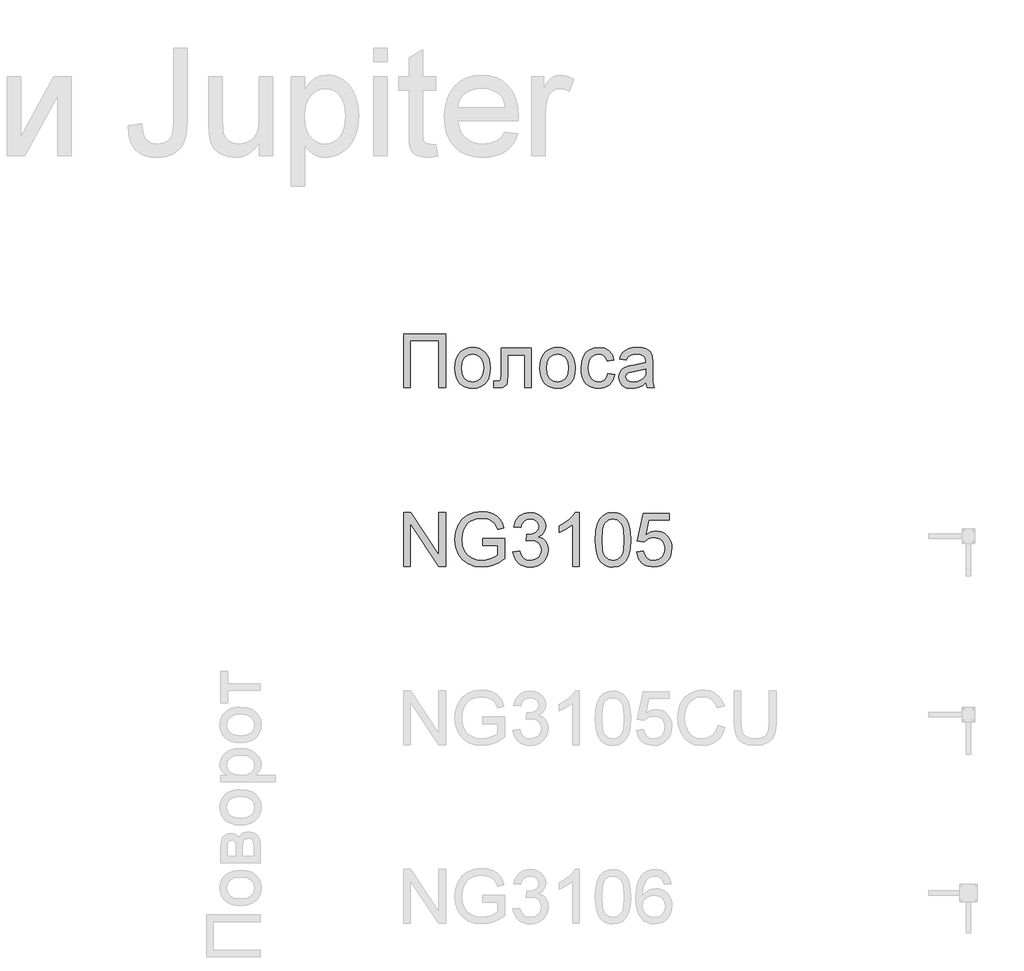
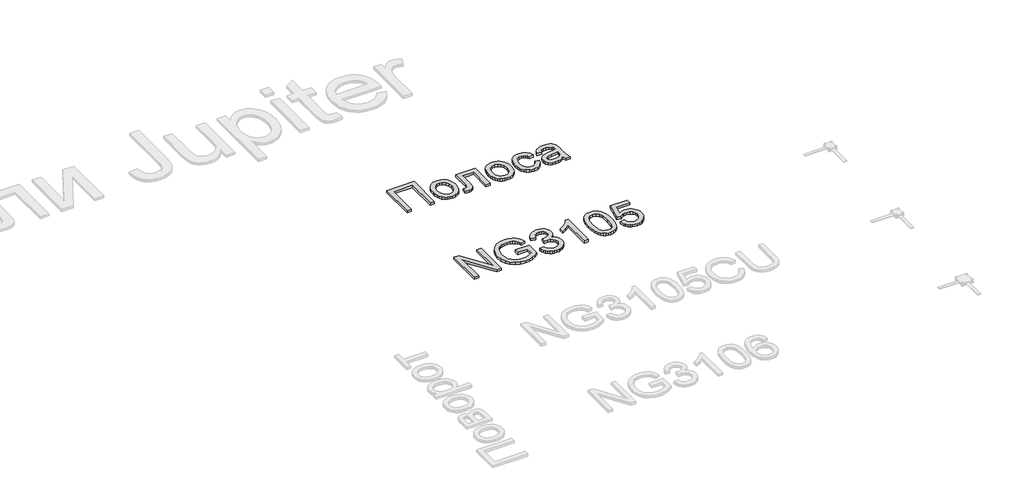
# One storey, part 124 of 124: 2 proxies.
"""IFC4 building model written with IfcOpenShell, lengths in millimetres."""

import ifcopenshell
import ifcopenshell.guid

model = None  # the IFC model being written
_history = None  # IfcOwnerHistory: only IFC2X3 demands one
_inside = {}  # id of a spatial element -> (the spatial element, [elements in it])
_under = {}  # id of a project, library or spatial element -> (it, [spatial elements below it])
_declared = {}  # id of a project -> (the project, [libraries it declares])
_typed = {}  # id of a type object -> (the type object, [elements of that type])
_made_of = {}  # id of a material, layer set ... -> (it, [elements and type objects made of it])


def new_model(schema):
    """Start an empty IFC model of exactly this schema.

    Asked for "IFC4X3", IfcOpenShell would pick the latest addendum, in which some entities
    have other attributes; the version numbers below select the first issue.
    IFC2X3 requires an IfcOwnerHistory on every rooted entity: one is made here for all.
    """
    global model, _history
    if schema == "IFC4X3":
        model = ifcopenshell.file(schema_version=(4, 3, 0, 0))
    else:
        model = ifcopenshell.file(schema=schema)
    _inside.clear()
    _under.clear()
    _declared.clear()
    _typed.clear()
    _made_of.clear()
    _history = None
    if model.schema == "IFC2X3":
        org = make("IfcOrganization", Name="unknown")
        user = make(
            "IfcPersonAndOrganization",
            ThePerson=make("IfcPerson", FamilyName="unknown"),
            TheOrganization=org,
        )
        app = make(
            "IfcApplication",
            ApplicationDeveloper=org,
            Version="unknown",
            ApplicationFullName="unknown",
            ApplicationIdentifier="unknown",
        )
        _history = make(
            "IfcOwnerHistory",
            OwningUser=user,
            OwningApplication=app,
            ChangeAction="ADDED",
            CreationDate=0,
        )
    return model


def make(cls, **values):
    """One entity of the class cls with the attributes given. An attribute that is None is left unset."""
    return model.create_entity(
        cls, **{name: value for name, value in values.items() if value is not None}
    )


def rooted(cls, **values):
    """An entity with a GlobalId (a new one), such as an element, a storey or a relation."""
    return make(cls, GlobalId=ifcopenshell.guid.new(), OwnerHistory=_history, **values)


def si_unit(unit_type, name, prefix=None):
    """IfcSIUnit, for example si_unit("LENGTHUNIT", "METRE", prefix="MILLI")."""
    return make("IfcSIUnit", UnitType=unit_type, Prefix=prefix, Name=name)


def assignment(units):
    """IfcUnitAssignment: the units of a project."""
    return None if units is None else make("IfcUnitAssignment", Units=units)


def point(xyz):
    """IfcCartesianPoint."""
    return None if xyz is None else make("IfcCartesianPoint", Coordinates=xyz)


def direction(xyz):
    """IfcDirection."""
    return None if xyz is None else make("IfcDirection", DirectionRatios=xyz)


def frame(location, z_axis=None, x_axis=None):
    """IfcAxis2Placement3D, a coordinate frame: its origin and axes. An axis left out is left unset."""
    return make(
        "IfcAxis2Placement3D",
        Location=point(location),
        Axis=direction(z_axis),
        RefDirection=direction(x_axis),
    )


def origin():
    """The frame at (0, 0, 0) with its axes left unset."""
    return frame((0.0, 0.0, 0.0))


def origin_with_axes():
    """The frame at (0, 0, 0) with the z axis (0, 0, 1) and the x axis (1, 0, 0) written out."""
    return frame((0.0, 0.0, 0.0), z_axis=(0.0, 0.0, 1.0), x_axis=(1.0, 0.0, 0.0))


def place(relative_to, where):
    """IfcLocalPlacement: puts the frame where relative to a parent placement (None: the world)."""
    return make(
        "IfcLocalPlacement", PlacementRelTo=relative_to, RelativePlacement=where
    )


def context(
    kind, dimensions, precision=None, world=None, true_north=None, identifier=None
):
    """IfcGeometricRepresentationContext, for example the 3D "Model" context."""
    return make(
        "IfcGeometricRepresentationContext",
        ContextIdentifier=identifier,
        ContextType=kind,
        CoordinateSpaceDimension=dimensions,
        Precision=precision,
        WorldCoordinateSystem=world,
        TrueNorth=true_north,
    )


def project(units=None, contexts=None):
    """IfcProject with its units and contexts."""
    return rooted(
        "IfcProject",
        Name="project",
        RepresentationContexts=contexts,
        UnitsInContext=assignment(units),
    )


def spatial(cls, under=None, at=None, **own):
    """A site, building, storey or space (cls), placed at a placement, below another one or the project."""
    s = rooted(cls, ObjectPlacement=at, **own)
    if under is not None:
        _under.setdefault(under.id(), (under, []))[1].append(s)
    return s


def polyline(points):
    """IfcPolyline through the points."""
    return make("IfcPolyline", Points=[point(p) for p in points])


def outline(outer, holes=None, kind="AREA"):
    """IfcArbitraryClosedProfileDef: a profile drawn as a closed curve; with holes, ...WithVoids."""
    if holes is None:
        return make("IfcArbitraryClosedProfileDef", ProfileType=kind, OuterCurve=outer)
    return make(
        "IfcArbitraryProfileDefWithVoids",
        ProfileType=kind,
        OuterCurve=outer,
        InnerCurves=holes,
    )


def extrude(swept, where, along, depth):
    """IfcExtrudedAreaSolid: the profile swept, set in the frame where, extruded along a direction by depth."""
    return make(
        "IfcExtrudedAreaSolid",
        SweptArea=swept,
        Position=where,
        ExtrudedDirection=direction(along),
        Depth=depth,
    )


def shape(context_of_items, identifier, shape_type, items):
    """IfcShapeRepresentation: the items that make up one representation, for example the "Body"."""
    return make(
        "IfcShapeRepresentation",
        ContextOfItems=context_of_items,
        RepresentationIdentifier=identifier,
        RepresentationType=shape_type,
        Items=items,
    )


def made_of(thing, what):
    """Note that an element or type object is made of a material, layer set ...; save() writes the relation."""
    if what is not None:
        _made_of.setdefault(what.id(), (what, []))[1].append(thing)
    return thing


def element(
    cls,
    number,
    at=None,
    inside=None,
    cuts=None,
    type_object=None,
    material=None,
    context=None,
    identifier="Body",
    shape_type=None,
    held_by="IfcProductDefinitionShape",
    body=None,
    shapes=None,
    **own,
):
    """One element of the class cls, such as IfcWall. Its Tag is "e" and its number.

    at: its placement. inside: the storey or other place that contains it. cuts: it is an
    opening in that element (IfcRelVoidsElement). A single representation is given by context,
    identifier, shape_type and body (its items); several are given by shapes. held_by: the class
    of the entity that holds the representations. save() writes the other relations.
    """
    e = rooted(cls, Tag="e%d" % number, ObjectPlacement=at, **own)
    if body is not None:
        shapes = [shape(context, identifier, shape_type, body)]
    if shapes is not None:
        e.Representation = make(held_by, Representations=shapes)
    if inside is not None:
        _inside.setdefault(inside.id(), (inside, []))[1].append(e)
    if cuts is not None:
        rooted(
            "IfcRelVoidsElement", RelatingBuildingElement=cuts, RelatedOpeningElement=e
        )
    if type_object is not None:
        _typed.setdefault(type_object.id(), (type_object, []))[1].append(e)
    return made_of(e, material)


def aggregate(whole, parts):
    """IfcRelAggregates: a whole, such as a stair, and the parts it consists of."""
    return rooted("IfcRelAggregates", RelatingObject=whole, RelatedObjects=parts)


def save(model, path):
    """Write the relations noted so far, then the file.

    IfcRelAggregates (storeys below a building ...), IfcRelContainedInSpatialStructure (elements
    in a storey), IfcRelDefinesByType, IfcRelAssociatesMaterial and IfcRelDeclares: one each for
    every whole, place, type object, material and project.
    """
    for whole, parts in _under.values():
        aggregate(whole, parts)
    for where, things in _inside.values():
        rooted(
            "IfcRelContainedInSpatialStructure",
            RelatedElements=things,
            RelatingStructure=where,
        )
    for kind, things in _typed.values():
        rooted("IfcRelDefinesByType", RelatedObjects=things, RelatingType=kind)
    for what, things in _made_of.values():
        rooted("IfcRelAssociatesMaterial", RelatedObjects=things, RelatingMaterial=what)
    for by, libraries in _declared.values():
        rooted("IfcRelDeclares", RelatingContext=by, RelatedDefinitions=libraries)
    model.write(path)


model = new_model("IFC4")

# Units and contexts
model_context = context("Model", 3, world=origin())
ifc_project = project(units=[si_unit("LENGTHUNIT", "METRE", prefix="MILLI")], contexts=[model_context])

# Site, building, storey
site = spatial("IfcSite", under=ifc_project)
building = spatial("IfcBuilding", under=site)
storey = spatial("IfcBuildingStorey", under=building, Name="Этаж 01", Elevation=0.0)

# Proxies
placement = place(None, origin())
element("IfcBuildingElementProxy", 1, Name="300", ObjectType="300", at=placement, inside=storey, context=model_context, shape_type="SweptSolid", body=[
    extrude(outline(polyline([(56699.8220677, -4218.1451728), (56935.2665446, -4218.1451728), (56935.2665446, -4519.5141033), (56897.5954283, -4519.5141033), (56897.5954283, -4255.8162891), (56737.493184, -4255.8162891), (56737.493184, -4519.5141033), (56699.8220677, -4519.5141033), (56699.8220677, -4218.1451728)])), origin_with_axes(), (0.0, 0.0, 1.0), 20.0),
    extrude(outline(polyline([(56987.0643295, -4408.8551991), (56989.1014761, -4380.1925932), (56995.2129157, -4355.4939157), (57005.3986485, -4334.7591668), (57019.6586743, -4317.9883463), (57034.0152692, -4307.2691847), (57049.8617861, -4299.6126406), (57067.1982251, -4295.0187142), (57086.0245862, -4293.4874054), (57106.8076197, -4295.3521073), (57125.5994919, -4300.9462129), (57142.4002027, -4310.2697222), (57157.2097523, -4323.3226352), (57169.2969751, -4339.6634936), (57177.9307057, -4358.8508389), (57183.110944, -4380.8846712), (57184.8376901, -4405.7649904), (57181.7842696, -4443.8223828), (57172.6240079, -4472.7930899), (57157.6236195, -4494.4889305), (57137.049819, -4510.7217236), (57112.6132574, -4520.8476755), (57086.0245862, -4524.2229928), (57064.9380501, -4522.3651887), (57045.971434, -4516.7917765), (57029.1247379, -4507.5027561), (57014.3979618, -4494.4981276), (57002.4394977, -4477.9986201), (56993.8977376, -4458.2249629), (56988.7726815, -4435.1771559), (56987.0643295, -4408.8551991)]), holes=[polyline([(57024.7354458, -4408.7816227), (57029.0948475, -4442.8750866), (57042.1730524, -4467.1644953), (57061.8547391, -4481.7050312), (57086.0245862, -4486.5518765), (57110.0840687, -4481.6774401), (57129.7289673, -4467.0541307), (57142.8071722, -4442.4428253), (57147.1665738, -4407.6044003), (57142.779581, -4374.5042178), (57129.6186027, -4350.5459029), (57109.946113, -4336.005367), (57086.0245862, -4331.1585217), (57061.8547391, -4335.9869729), (57042.1730524, -4350.4723265), (57029.0948475, -4374.7065529), (57024.7354458, -4408.7816227)])]), origin_with_axes(), (0.0, 0.0, 1.0), 20.0),
    extrude(outline(polyline([(57246.0532541, -4298.196295), (57415.5732775, -4298.196295), (57415.5732775, -4519.2933741), (57377.9021612, -4519.2933741), (57377.9021612, -4335.8674113), (57283.7243704, -4335.8674113), (57283.7243704, -4441.4495439), (57281.1859847, -4490.15712), (57276.4311099, -4501.1843829), (57267.2432571, -4510.7217236), (57253.3005294, -4517.3160083), (57234.2810303, -4519.5141033), (57203.6732483, -4517.6011169), (57203.6732483, -4481.842987), (57220.5222437, -4481.842987), (57237.55518, -4479.5253304), (57244.360997, -4472.1676905), (57246.0532541, -4439.3158283), (57246.0532541, -4298.196295)])), origin_with_axes(), (0.0, 0.0, 1.0), 20.0),
    extrude(outline(polyline([(57462.6621729, -4408.8551991), (57464.6993194, -4380.1925932), (57470.8107591, -4355.4939157), (57480.9964918, -4334.7591668), (57495.2565177, -4317.9883463), (57509.6131125, -4307.2691847), (57525.4596295, -4299.6126406), (57542.7960685, -4295.0187142), (57561.6224296, -4293.4874054), (57582.4054631, -4295.3521073), (57601.1973352, -4300.9462129), (57617.9980461, -4310.2697222), (57632.8075957, -4323.3226352), (57644.8948185, -4339.6634936), (57653.528549, -4358.8508389), (57658.7087874, -4380.8846712), (57660.4355335, -4405.7649904), (57657.3821129, -4443.8223828), (57648.2218513, -4472.7930899), (57633.2214629, -4494.4889305), (57612.6476623, -4510.7217236), (57588.2111008, -4520.8476755), (57561.6224296, -4524.2229928), (57540.5358935, -4522.3651887), (57521.5692774, -4516.7917765), (57504.7225813, -4507.5027561), (57489.9958051, -4494.4981276), (57478.037341, -4477.9986201), (57469.495581, -4458.2249629), (57464.3705249, -4435.1771559), (57462.6621729, -4408.8551991)]), holes=[polyline([(57500.3332892, -4408.7816227), (57504.6926908, -4442.8750866), (57517.7708958, -4467.1644953), (57537.4525825, -4481.7050312), (57561.6224296, -4486.5518765), (57585.6819121, -4481.6774401), (57605.3268106, -4467.0541307), (57618.4050156, -4442.4428253), (57622.7644172, -4407.6044003), (57618.3774244, -4374.5042178), (57605.216446, -4350.5459029), (57585.5439563, -4336.005367), (57561.6224296, -4331.1585217), (57537.4525825, -4335.9869729), (57517.7708958, -4350.4723265), (57504.6926908, -4374.7065529), (57500.3332892, -4408.7816227)])]), origin_with_axes(), (0.0, 0.0, 1.0), 20.0),
    extrude(outline(polyline([(57844.0822255, -4439.4629811), (57881.7533418, -4444.1718706), (57871.2503108, -4477.6767234), (57851.5134418, -4502.9962017), (57824.4005387, -4518.916295), (57791.7694058, -4524.2229928), (57770.6414829, -4522.3720865), (57751.6978595, -4516.8193676), (57734.9385353, -4507.5648362), (57720.3635105, -4494.6084922), (57708.5659948, -4478.1940574), (57700.1391978, -4458.5652537), (57695.0831197, -4435.7220811), (57693.3977603, -4409.6645395), (57696.2764369, -4376.1412927), (57704.9124667, -4347.0878121), (57719.4438055, -4323.6261379), (57740.0084091, -4306.87831), (57764.6105175, -4296.8351316), (57791.254371, -4293.4874054), (57823.0853606, -4298.0859304), (57848.5335976, -4311.8815052), (57866.7897416, -4334.1383659), (57877.0444523, -4364.1207485), (57839.373336, -4368.829638), (57832.5399279, -4352.3945099), (57821.8989412, -4340.613089), (57808.038987, -4333.5221635), (57791.5486766, -4331.1585217), (57767.2040855, -4335.812229), (57747.8810838, -4349.7733507), (57735.2719284, -4373.796045), (57731.0688766, -4408.6344699), (57735.1799579, -4443.9419444), (57747.5132018, -4468.0474121), (57766.4867157, -4481.9257604), (57790.518607, -4486.5518765), (57810.0255498, -4483.6640028), (57826.0192195, -4475.0003818), (57837.6534876, -4460.3402843), (57844.0822255, -4439.4629811)])), origin_with_axes(), (0.0, 0.0, 1.0), 20.0),
    extrude(outline(polyline([(58055.9822547, -4491.260766), (58037.9836281, -4506.6934157), (58019.4515726, -4516.7917765), (57999.9630239, -4522.3651887), (57979.0949177, -4524.2229928), (57947.613416, -4519.7532266), (57924.390865, -4506.3439278), (57910.0710584, -4485.9816594), (57905.2977895, -4460.652984), (57907.1004113, -4445.0363933), (57912.5082766, -4430.8545424), (57920.8500008, -4418.7144366), (57931.4541993, -4409.2230811), (57957.8313384, -4396.8622461), (57990.4256832, -4391.1968633), (58028.9429281, -4385.237175), (58055.7615255, -4378.2474171), (58055.9822547, -4369.8597076), (58053.3886866, -4353.0475004), (58045.6079824, -4342.0478288), (58028.2071641, -4333.8808485), (58003.9637406, -4331.1585217), (57981.5229389, -4332.9703406), (57965.8511659, -4338.405797), (57955.1641939, -4348.4581726), (57947.6777953, -4364.1207485), (57910.006679, -4359.411859), (57916.5457815, -4338.8104672), (57926.3038514, -4322.6236594), (57940.1913967, -4310.2444303), (57959.1189254, -4301.0657745), (57982.2678999, -4295.3819977), (58008.8197829, -4293.4874054), (58034.286414, -4295.1612685), (58054.4739385, -4300.1828577), (58069.6950561, -4307.7336357), (58080.2624664, -4316.9950649), (58087.2706184, -4328.445392), (58091.813961, -4342.5628636), (58093.653371, -4375.5250903), (58093.653371, -4422.3932565), (58095.5663574, -4487.8394635), (58103.0711501, -4519.5141033), (58065.4000338, -4519.5141033), (58055.9822547, -4491.260766)]), holes=[polyline([(58055.9822547, -4415.9185334), (57995.2081491, -4427.4700281), (57962.7977453, -4433.5768692), (57948.1192537, -4443.5096831), (57942.9689058, -4458.0042337), (57945.774006, -4469.2062404), (57954.1893066, -4478.3848962), (57968.0308667, -4484.5101314), (57987.1147452, -4486.5518765), (58007.348255, -4484.2985993), (58025.2273199, -4477.5387676), (58039.7218705, -4467.5783626), (58049.8018372, -4455.7233653), (58054.2716034, -4443.5096831), (58055.7615255, -4426.5871113), (58055.9822547, -4415.9185334)])]), origin_with_axes(), (0.0, 0.0, 1.0), 20.0),
])
element("IfcBuildingElementProxy", 2, Name="300", ObjectType="300", at=placement, inside=storey, context=model_context, shape_type="SweptSolid", body=[
    extrude(outline(polyline([(56699.8220677, -5519.5141033), (56699.8220677, -5218.1451728), (56740.1419344, -5218.1451728), (56897.5954283, -5456.9005877), (56897.5954283, -5218.1451728), (56935.2665446, -5218.1451728), (56935.2665446, -5519.5141033), (56894.9466779, -5519.5141033), (56737.493184, -5280.685112), (56737.493184, -5519.5141033), (56699.8220677, -5519.5141033)])), origin_with_axes(), (0.0, 0.0, 1.0), 20.0),
    extrude(outline(polyline([(57142.4576843, -5401.7918648), (57142.4576843, -5364.1207485), (57264.8888123, -5364.1207485), (57264.8888123, -5476.7662154), (57235.1363559, -5497.4595776), (57204.4458005, -5512.3036162), (57172.8907223, -5521.2431486), (57140.5446979, -5524.2229928), (57098.2842537, -5519.4865121), (57060.0889056, -5505.27707), (57028.3590835, -5482.0913073), (57005.4952175, -5450.4258646), (56991.6720515, -5412.4420486), (56987.0643295, -5370.301166), (56991.6536574, -5327.8567808), (57005.4216411, -5288.3738457), (57027.7980634, -5255.2552691), (57058.2127074, -5231.9039594), (57095.2584243, -5218.0532023), (57137.5280656, -5213.4362833), (57168.5589118, -5216.1126248), (57196.4627612, -5224.1416493), (57219.9612236, -5236.9439428), (57237.7759092, -5253.9400909), (57250.9552817, -5275.9486313), (57260.5478047, -5303.7881013), (57225.8197444, -5313.5737624), (57218.0666313, -5293.7173317), (57208.6396552, -5278.7353374), (57196.1684556, -5267.4413602), (57179.282672, -5258.6489805), (57159.1503298, -5252.9927948), (57136.9394544, -5251.1073996), (57110.9393944, -5253.1399476), (57088.7101248, -5259.2375917), (57070.3344191, -5268.6369766), (57055.8950508, -5280.5747474), (57036.5076697, -5309.6006368), (57027.6785018, -5338.037915), (57024.7354458, -5368.7560616), (57028.27631, -5404.780906), (57038.8989026, -5434.4229978), (57056.2813269, -5457.4708048), (57080.1016861, -5473.7127949), (57107.9779443, -5483.3421061), (57137.5280656, -5486.5518765), (57163.6200961, -5484.1330524), (57189.0683331, -5476.87658), (57211.1688439, -5466.8793868), (57227.217696, -5456.2384001), (57227.217696, -5401.7918648), (57142.4576843, -5401.7918648)])), origin_with_axes(), (0.0, 0.0, 1.0), 20.0),
    extrude(outline(polyline([(57311.9777077, -5439.4629811), (57349.648824, -5434.7540916), (57358.0825187, -5458.427298), (57370.4341567, -5474.4117707), (57387.3107432, -5483.51685), (57409.3192836, -5486.5518765), (57435.1445997, -5482.3764158), (57455.0838038, -5469.8500339), (57467.8309149, -5451.1616286), (57472.079952, -5428.5000977), (57467.8677031, -5406.988198), (57455.2309566, -5389.5413944), (57436.1010928, -5377.9807027), (57412.4094924, -5374.1271388), (57385.9955651, -5378.2474171), (57390.1894198, -5340.5763008), (57396.2226846, -5341.0177592), (57418.792245, -5338.3138265), (57438.9705724, -5330.2020285), (57453.2076056, -5316.4800301), (57457.9532834, -5296.9454962), (57454.5135867, -5280.6759149), (57444.1944967, -5267.4781484), (57428.4491473, -5258.7317539), (57408.7306724, -5255.8162891), (57388.9754093, -5258.7593451), (57372.8253897, -5267.588513), (57361.0347717, -5282.3037928), (57354.3577135, -5302.9051845), (57316.6865972, -5298.196295), (57327.7782394, -5264.3695455), (57347.5151084, -5239.1144465), (57374.5176468, -5223.3874912), (57407.4062972, -5218.1451728), (57431.0887007, -5220.7295438), (57452.8397236, -5228.4826569), (57471.1786411, -5240.7147332), (57484.624728, -5256.7359941), (57492.8744817, -5275.1944732), (57495.6243997, -5294.7382042), (57493.0124375, -5312.948363), (57485.176551, -5329.4662646), (57472.2271048, -5343.5377509), (57454.2744634, -5354.4086638), (57477.8556993, -5363.9368075), (57495.3300941, -5380.1604035), (57506.1458247, -5402.196535), (57509.7510683, -5429.1622852), (57507.9484465, -5448.2737549), (57502.5405812, -5465.8769084), (57493.5274723, -5481.9717457), (57480.9091199, -5496.5582668), (57465.536251, -5508.6615844), (57448.2595928, -5517.3068113), (57429.0791453, -5522.4939474), (57407.9949084, -5524.2229928), (57388.9386211, -5522.7468663), (57371.5745909, -5518.3184868), (57355.9028179, -5510.9378542), (57341.9233021, -5500.6049687), (57330.201662, -5487.9268354), (57321.3035162, -5473.5104598), (57315.2288648, -5457.3558417), (57311.9777077, -5439.4629811)])), origin_with_axes(), (0.0, 0.0, 1.0), 20.0),
    extrude(outline(polyline([(57683.9799812, -5519.5141033), (57646.3088649, -5519.5141033), (57646.3088649, -5284.6582375), (57610.6243114, -5310.0788834), (57570.9666323, -5329.0983826), (57570.9666323, -5293.4874054), (57600.5535417, -5277.3925681), (57626.1857197, -5258.2443103), (57646.3916383, -5237.8820419), (57659.6997695, -5218.1451728), (57683.9799812, -5218.1451728), (57683.9799812, -5519.5141033)])), origin_with_axes(), (0.0, 0.0, 1.0), 20.0),
    extrude(outline(polyline([(57773.4488824, -5371.2576592), (57776.2171944, -5323.0191326), (57784.5221305, -5284.5478729), (57798.2809171, -5255.2552691), (57817.4107808, -5234.5527098), (57842.0496775, -5222.2470571), (57872.3355627, -5218.1451728), (57895.5489166, -5220.573194), (57916.3342493, -5227.8572575), (57933.7166736, -5239.7122548), (57946.7213021, -5255.8530773), (57956.5437514, -5276.1417694), (57964.3796379, -5300.4403751), (57969.5115917, -5331.2964775), (57971.222243, -5371.2576592), (57968.4815222, -5419.2202743), (57960.2593596, -5457.5995635), (57946.5833464, -5486.9197585), (57927.4810738, -5507.7050912), (57902.7869949, -5520.0935174), (57872.3355627, -5524.2229928), (57851.5870182, -5522.4295681), (57833.1929184, -5517.0492939), (57817.1532634, -5508.0821703), (57803.4680532, -5495.5281972), (57790.334666, -5472.8344766), (57780.9536751, -5444.5581467), (57775.3250806, -5410.6992076), (57773.4488824, -5371.2576592)]), holes=[polyline([(57811.1199987, -5371.1840828), (57815.5345827, -5430.4406752), (57821.0528126, -5450.7086739), (57828.7783345, -5464.7364742), (57848.4968094, -5481.0980259), (57872.3355627, -5486.5518765), (57896.174316, -5481.0796318), (57915.892791, -5464.6628978), (57923.6183128, -5450.6121048), (57929.1365428, -5430.3487047), (57933.5511267, -5371.1840828), (57929.2836956, -5313.2610627), (57923.9494066, -5293.0597426), (57916.4814021, -5278.6985492), (57896.7997154, -5261.5368541), (57871.8941043, -5255.8162891), (57848.3128684, -5260.8562725), (57829.3669457, -5275.9762225), (57821.3839064, -5291.6112072), (57815.6817355, -5312.6908456), (57811.1199987, -5371.1840828)])]), origin_with_axes(), (0.0, 0.0, 1.0), 20.0),
    extrude(outline(polyline([(58004.1844698, -5439.4629811), (58041.8555861, -5434.7540916), (58048.7717676, -5457.3696372), (58060.838297, -5473.5656421), (58077.9999921, -5483.3053179), (58100.2016705, -5486.5518765), (58127.204209, -5482.036125), (58147.4377187, -5468.4888705), (58160.0744652, -5447.4736116), (58164.2867141, -5420.5538466), (58160.3411797, -5395.2067771), (58148.5045765, -5375.8193959), (58128.684934, -5363.5137432), (58100.7902817, -5359.411859), (58082.5157436, -5361.0489338), (58067.7176904, -5365.9601585), (58046.5644756, -5382.9563067), (58008.8933593, -5378.2474171), (58041.8555861, -5222.8540624), (58187.8311618, -5222.8540624), (58187.8311618, -5260.5251787), (58072.3162153, -5260.5251787), (58056.2029839, -5343.5193568), (58083.1135519, -5327.1853962), (58111.3117068, -5321.7407427), (58129.657522, -5323.4284013), (58146.5088167, -5328.4913773), (58161.8655907, -5336.9296705), (58175.7278441, -5348.7432811), (58187.2034631, -5363.2102406), (58195.4003338, -5379.6085805), (58200.3184563, -5397.9383009), (58201.9578304, -5418.1994018), (58196.0533244, -5455.8705181), (58188.6726918, -5472.6643312), (58178.3398063, -5488.0969809), (58162.6864274, -5503.9021111), (58144.4210864, -5515.1914898), (58123.5437831, -5521.9651171), (58100.0545177, -5524.2229928), (58063.0547861, -5518.4196543), (58047.3761153, -5511.1654812), (58033.5782412, -5501.0096389), (58022.0980237, -5488.4579651), (58013.3723226, -5474.0162975), (58004.1844698, -5439.4629811)])), origin_with_axes(), (0.0, 0.0, 1.0), 20.0),
])

save(model, "model.ifc")
